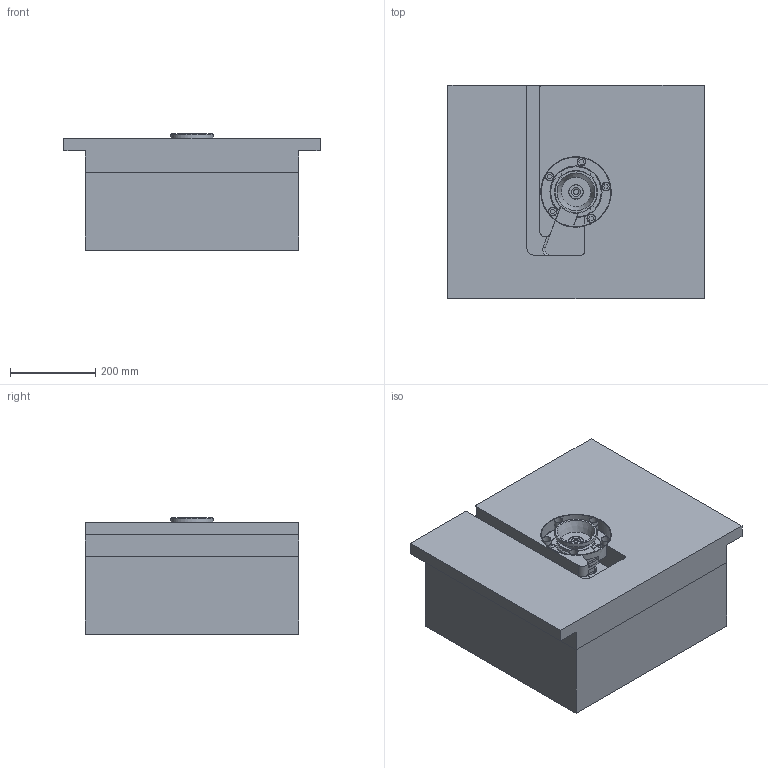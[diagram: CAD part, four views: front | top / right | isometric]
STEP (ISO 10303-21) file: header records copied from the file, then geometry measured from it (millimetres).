
FILE_DESCRIPTION( ( 'STEP AP214' ), '1' );
FILE_NAME( '//Gabi/d on gabi/PROIECTE_YUDO_2009/PROIECTE YUDO 3D/SAS/YUEU09-SAS42VC220_8/YUEU09-SAS42VC220_8-3D.step', '2009-05-07T08:48:47', ( ' ' ), ( ' ' ), 'XStep 1.0', ' ', ' ' );
FILE_SCHEMA( ( 'automotive_design' ) );
Length unit declared in the file: millimetre
Products named in the file (26): 1; 2; 3; 4; 5; 6; 7; 8; 9; 10; 11; 12; 13; 14; 15; 16; 17; 18; 19; 20; 21; 22; 23; 24; 25; 26
Bounding box: 600 x 500 x 272.5 mm (x, y, z)
Volume: 66045154.5 mm3; surface area: 1957573.3 mm2
Topology: 26 solids, 26 shells, 612 faces, 1328 edges, 874 vertices
Faces by surface type: plane 340, cylinder 193, cone 65, torus 11, bspline 2, sphere 1
Full cylindrical faces by diameter (mm): 2.5 x2, 3.6 x2, 5.34 x8, 5.35 x16, 6 x16, 7 x12, 8 x2, 10 x10, 10.5 x1, 11.34 x5, 11.35 x10, 12 x5, 12.5 x1, 13 x5, 14 x5, 19 x5, 20 x5, 28 x1, 33 x2, 36 x1, 39 x1, 42 x4, 51.4 x1, 57 x1, 58 x2, 85 x1, 100 x1, 119 x4, 120 x4, 165 x1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
Entity records: 20849 total; most frequent: CARTESIAN_POINT 2895, DIRECTION 2777, ORIENTED_EDGE 2136, AXIS2_PLACEMENT_3D 1112, EDGE_CURVE 1068, EDGE_LOOP 939, VERTEX_POINT 824, FACE_OUTER_BOUND 758
